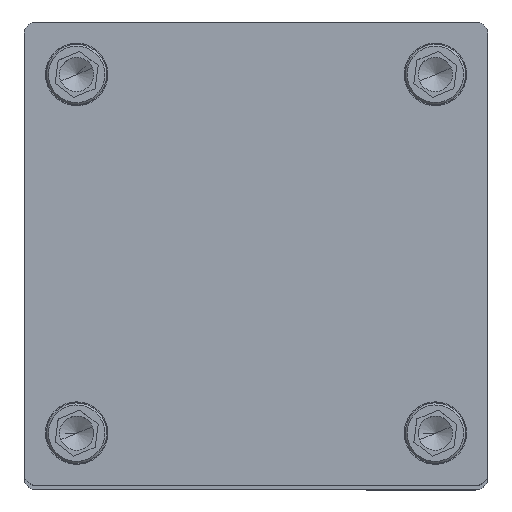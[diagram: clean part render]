
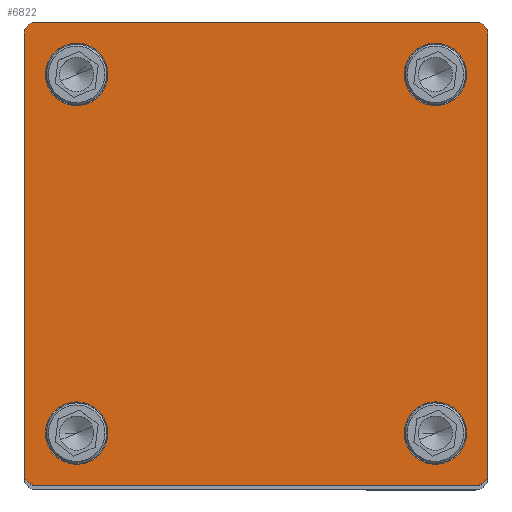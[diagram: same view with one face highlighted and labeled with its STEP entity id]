
A CAD part, top view. The second image highlights one B-rep face of the part: STEP entity #6822.
In plain terms, the highlighted planar face has unit normal (0, 0, 1).
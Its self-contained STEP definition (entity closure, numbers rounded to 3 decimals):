
#52 = CARTESIAN_POINT ( 'NONE',  ( -57.5, 57.5, 536. ) ) ;
#126 = CIRCLE ( 'NONE', #2419, 3. ) ;
#136 = ORIENTED_EDGE ( 'NONE', *, *, #2263, .F. ) ;
#143 = FACE_BOUND ( 'NONE', #11716, .T. ) ;
#163 = VERTEX_POINT ( 'NONE', #9546 ) ;
#212 = ORIENTED_EDGE ( 'NONE', *, *, #2367, .T. ) ;
#250 = VERTEX_POINT ( 'NONE', #6846 ) ;
#288 = VERTEX_POINT ( 'NONE', #12730 ) ;
#411 = EDGE_CURVE ( 'NONE', #10599, #3615, #9490, .T. ) ;
#418 = VERTEX_POINT ( 'NONE', #7049 ) ;
#552 = CARTESIAN_POINT ( 'NONE',  ( 57.5, 57.5, 536. ) ) ;
#598 = CARTESIAN_POINT ( 'NONE',  ( -54.5, 57.5, 536. ) ) ;
#819 = AXIS2_PLACEMENT_3D ( 'NONE', #1717, #10606, #1633 ) ;
#883 = DIRECTION ( 'NONE',  ( 1., 0., 0. ) ) ;
#894 = DIRECTION ( 'NONE',  ( -1., 0., 0. ) ) ;
#929 = CIRCLE ( 'NONE', #10365, 7.75 ) ;
#1045 = ORIENTED_EDGE ( 'NONE', *, *, #8635, .F. ) ;
#1046 = DIRECTION ( 'NONE',  ( 1., 0., 0. ) ) ;
#1112 = DIRECTION ( 'NONE',  ( 1., 0., 0. ) ) ;
#1202 = CARTESIAN_POINT ( 'NONE',  ( -54.5, -54.5, 536. ) ) ;
#1417 = AXIS2_PLACEMENT_3D ( 'NONE', #552, #7515, #11679 ) ;
#1427 = ORIENTED_EDGE ( 'NONE', *, *, #6413, .F. ) ;
#1499 = ORIENTED_EDGE ( 'NONE', *, *, #9145, .T. ) ;
#1523 = EDGE_CURVE ( 'NONE', #1685, #10012, #3161, .T. ) ;
#1633 = DIRECTION ( 'NONE',  ( -1., 0., 0. ) ) ;
#1679 = CARTESIAN_POINT ( 'NONE',  ( -57.5, 54.5, 536. ) ) ;
#1685 = VERTEX_POINT ( 'NONE', #5452 ) ;
#1717 = CARTESIAN_POINT ( 'NONE',  ( 54.5, -54.5, 536. ) ) ;
#1762 = VERTEX_POINT ( 'NONE', #10277 ) ;
#1873 = CIRCLE ( 'NONE', #6581, 7.75 ) ;
#1924 = DIRECTION ( 'NONE',  ( 0., -1., 0. ) ) ;
#2002 = ORIENTED_EDGE ( 'NONE', *, *, #411, .F. ) ;
#2161 = DIRECTION ( 'NONE',  ( 1., 0., 0. ) ) ;
#2200 = DIRECTION ( 'NONE',  ( -1., 0., 0. ) ) ;
#2263 = EDGE_CURVE ( 'NONE', #10012, #1685, #929, .T. ) ;
#2327 = CIRCLE ( 'NONE', #819, 3. ) ;
#2367 = EDGE_CURVE ( 'NONE', #250, #5394, #2327, .T. ) ;
#2412 = LINE ( 'NONE', #7911, #12755 ) ;
#2419 = AXIS2_PLACEMENT_3D ( 'NONE', #6948, #7948, #894 ) ;
#2424 = LINE ( 'NONE', #52, #5074 ) ;
#2607 = FACE_BOUND ( 'NONE', #11071, .T. ) ;
#2778 = LINE ( 'NONE', #5879, #12654 ) ;
#2813 = CIRCLE ( 'NONE', #5544, 7.75 ) ;
#2841 = CARTESIAN_POINT ( 'NONE',  ( -36.75, 44.5, 536. ) ) ;
#3030 = AXIS2_PLACEMENT_3D ( 'NONE', #10057, #12008, #7965 ) ;
#3046 = ORIENTED_EDGE ( 'NONE', *, *, #3603, .T. ) ;
#3080 = VECTOR ( 'NONE', #7165, 1000. ) ;
#3161 = CIRCLE ( 'NONE', #11478, 7.75 ) ;
#3378 = VERTEX_POINT ( 'NONE', #5900 ) ;
#3382 = ORIENTED_EDGE ( 'NONE', *, *, #1523, .F. ) ;
#3395 = EDGE_LOOP ( 'NONE', ( #3382, #136 ) ) ;
#3445 = DIRECTION ( 'NONE',  ( -1., 0., 0. ) ) ;
#3486 = DIRECTION ( 'NONE',  ( 0., 0., 1. ) ) ;
#3541 = CARTESIAN_POINT ( 'NONE',  ( -54.5, -57.5, 536. ) ) ;
#3603 = EDGE_CURVE ( 'NONE', #3378, #288, #12478, .T. ) ;
#3615 = VERTEX_POINT ( 'NONE', #4445 ) ;
#3647 = PLANE ( 'NONE',  #1417 ) ;
#3979 = DIRECTION ( 'NONE',  ( 0., 0., 1. ) ) ;
#3980 = CARTESIAN_POINT ( 'NONE',  ( 36.75, -44.5, 536. ) ) ;
#4008 = DIRECTION ( 'NONE',  ( 0., 0., 1. ) ) ;
#4146 = CARTESIAN_POINT ( 'NONE',  ( -36.75, -44.5, 536. ) ) ;
#4205 = EDGE_CURVE ( 'NONE', #3615, #10599, #10722, .T. ) ;
#4442 = EDGE_CURVE ( 'NONE', #163, #6057, #6148, .T. ) ;
#4445 = CARTESIAN_POINT ( 'NONE',  ( -52.25, -44.5, 536. ) ) ;
#4490 = CARTESIAN_POINT ( 'NONE',  ( 54.5, 54.5, 536. ) ) ;
#4506 = CARTESIAN_POINT ( 'NONE',  ( 36.75, 44.5, 536. ) ) ;
#5016 = DIRECTION ( 'NONE',  ( 1., 0., 0. ) ) ;
#5032 = CARTESIAN_POINT ( 'NONE',  ( -44.5, 44.5, 536. ) ) ;
#5074 = VECTOR ( 'NONE', #7946, 1000. ) ;
#5394 = VERTEX_POINT ( 'NONE', #6265 ) ;
#5426 = EDGE_LOOP ( 'NONE', ( #2002, #8602 ) ) ;
#5443 = ORIENTED_EDGE ( 'NONE', *, *, #12101, .F. ) ;
#5452 = CARTESIAN_POINT ( 'NONE',  ( 52.25, -44.5, 536. ) ) ;
#5540 = VERTEX_POINT ( 'NONE', #4506 ) ;
#5544 = AXIS2_PLACEMENT_3D ( 'NONE', #12073, #11037, #2161 ) ;
#5563 = DIRECTION ( 'NONE',  ( 1., 0., 0. ) ) ;
#5615 = VERTEX_POINT ( 'NONE', #2841 ) ;
#5879 = CARTESIAN_POINT ( 'NONE',  ( -57.5, -57.5, 536. ) ) ;
#5882 = ORIENTED_EDGE ( 'NONE', *, *, #9479, .T. ) ;
#5900 = CARTESIAN_POINT ( 'NONE',  ( 57.5, 54.5, 536. ) ) ;
#6057 = VERTEX_POINT ( 'NONE', #3541 ) ;
#6148 = CIRCLE ( 'NONE', #7030, 3. ) ;
#6265 = CARTESIAN_POINT ( 'NONE',  ( 57.5, -54.5, 536. ) ) ;
#6413 = EDGE_CURVE ( 'NONE', #5540, #418, #10183, .T. ) ;
#6581 = AXIS2_PLACEMENT_3D ( 'NONE', #12102, #6854, #883 ) ;
#6724 = VERTEX_POINT ( 'NONE', #1679 ) ;
#6822 = ADVANCED_FACE ( 'NONE', ( #2607, #8417, #10341, #143, #10963 ), #3647, .F. ) ;
#6846 = CARTESIAN_POINT ( 'NONE',  ( 54.5, -57.5, 536. ) ) ;
#6854 = DIRECTION ( 'NONE',  ( 0., 0., 1. ) ) ;
#6948 = CARTESIAN_POINT ( 'NONE',  ( -54.5, 54.5, 536. ) ) ;
#6981 = CARTESIAN_POINT ( 'NONE',  ( 44.5, -44.5, 536. ) ) ;
#6991 = CARTESIAN_POINT ( 'NONE',  ( 44.5, -44.5, 536. ) ) ;
#7030 = AXIS2_PLACEMENT_3D ( 'NONE', #1202, #8170, #2200 ) ;
#7049 = CARTESIAN_POINT ( 'NONE',  ( 52.25, 44.5, 536. ) ) ;
#7165 = DIRECTION ( 'NONE',  ( 0., 1., 0. ) ) ;
#7436 = EDGE_CURVE ( 'NONE', #6724, #163, #2778, .T. ) ;
#7502 = ORIENTED_EDGE ( 'NONE', *, *, #7841, .T. ) ;
#7515 = DIRECTION ( 'NONE',  ( 0., 0., -1. ) ) ;
#7841 = EDGE_CURVE ( 'NONE', #11753, #6724, #126, .T. ) ;
#7911 = CARTESIAN_POINT ( 'NONE',  ( -57.5, -57.5, 536. ) ) ;
#7919 = EDGE_CURVE ( 'NONE', #5394, #3378, #9379, .T. ) ;
#7946 = DIRECTION ( 'NONE',  ( -1., 0., 0. ) ) ;
#7947 = AXIS2_PLACEMENT_3D ( 'NONE', #8402, #3486, #5563 ) ;
#7948 = DIRECTION ( 'NONE',  ( 0., 0., 1. ) ) ;
#7965 = DIRECTION ( 'NONE',  ( 1., 0., 0. ) ) ;
#8034 = CARTESIAN_POINT ( 'NONE',  ( 57.5, -57.5, 536. ) ) ;
#8170 = DIRECTION ( 'NONE',  ( 0., 0., 1. ) ) ;
#8402 = CARTESIAN_POINT ( 'NONE',  ( -44.5, -44.5, 536. ) ) ;
#8417 = FACE_BOUND ( 'NONE', #5426, .T. ) ;
#8583 = DIRECTION ( 'NONE',  ( 0., 0., 1. ) ) ;
#8602 = ORIENTED_EDGE ( 'NONE', *, *, #4205, .F. ) ;
#8635 = EDGE_CURVE ( 'NONE', #5615, #1762, #8869, .T. ) ;
#8869 = CIRCLE ( 'NONE', #11279, 7.75 ) ;
#8900 = DIRECTION ( 'NONE',  ( 1., 0., 0. ) ) ;
#9123 = DIRECTION ( 'NONE',  ( 1., 0., 0. ) ) ;
#9145 = EDGE_CURVE ( 'NONE', #288, #11753, #2424, .T. ) ;
#9267 = ORIENTED_EDGE ( 'NONE', *, *, #4442, .T. ) ;
#9379 = LINE ( 'NONE', #8034, #3080 ) ;
#9479 = EDGE_CURVE ( 'NONE', #6057, #250, #2412, .T. ) ;
#9490 = CIRCLE ( 'NONE', #12001, 7.75 ) ;
#9546 = CARTESIAN_POINT ( 'NONE',  ( -57.5, -54.5, 536. ) ) ;
#9736 = EDGE_LOOP ( 'NONE', ( #9760, #3046, #1499, #7502, #10143, #9267, #5882, #212 ) ) ;
#9760 = ORIENTED_EDGE ( 'NONE', *, *, #7919, .T. ) ;
#9929 = CARTESIAN_POINT ( 'NONE',  ( -44.5, -44.5, 536. ) ) ;
#10012 = VERTEX_POINT ( 'NONE', #3980 ) ;
#10044 = DIRECTION ( 'NONE',  ( 0., 0., 1. ) ) ;
#10057 = CARTESIAN_POINT ( 'NONE',  ( 44.5, 44.5, 536. ) ) ;
#10143 = ORIENTED_EDGE ( 'NONE', *, *, #7436, .T. ) ;
#10183 = CIRCLE ( 'NONE', #3030, 7.75 ) ;
#10277 = CARTESIAN_POINT ( 'NONE',  ( -52.25, 44.5, 536. ) ) ;
#10341 = FACE_BOUND ( 'NONE', #3395, .T. ) ;
#10365 = AXIS2_PLACEMENT_3D ( 'NONE', #6991, #10044, #1112 ) ;
#10599 = VERTEX_POINT ( 'NONE', #4146 ) ;
#10606 = DIRECTION ( 'NONE',  ( 0., 0., 1. ) ) ;
#10658 = ORIENTED_EDGE ( 'NONE', *, *, #12516, .F. ) ;
#10722 = CIRCLE ( 'NONE', #7947, 7.75 ) ;
#10963 = FACE_OUTER_BOUND ( 'NONE', #9736, .T. ) ;
#11037 = DIRECTION ( 'NONE',  ( 0., 0., 1. ) ) ;
#11071 = EDGE_LOOP ( 'NONE', ( #1045, #5443 ) ) ;
#11279 = AXIS2_PLACEMENT_3D ( 'NONE', #5032, #12977, #8900 ) ;
#11478 = AXIS2_PLACEMENT_3D ( 'NONE', #6981, #3979, #5016 ) ;
#11679 = DIRECTION ( 'NONE',  ( -1., 0., 0. ) ) ;
#11716 = EDGE_LOOP ( 'NONE', ( #10658, #1427 ) ) ;
#11753 = VERTEX_POINT ( 'NONE', #598 ) ;
#12001 = AXIS2_PLACEMENT_3D ( 'NONE', #9929, #4008, #1046 ) ;
#12008 = DIRECTION ( 'NONE',  ( 0., 0., 1. ) ) ;
#12073 = CARTESIAN_POINT ( 'NONE',  ( -44.5, 44.5, 536. ) ) ;
#12101 = EDGE_CURVE ( 'NONE', #1762, #5615, #2813, .T. ) ;
#12102 = CARTESIAN_POINT ( 'NONE',  ( 44.5, 44.5, 536. ) ) ;
#12478 = CIRCLE ( 'NONE', #12566, 3. ) ;
#12516 = EDGE_CURVE ( 'NONE', #418, #5540, #1873, .T. ) ;
#12566 = AXIS2_PLACEMENT_3D ( 'NONE', #4490, #8583, #3445 ) ;
#12654 = VECTOR ( 'NONE', #1924, 1000. ) ;
#12730 = CARTESIAN_POINT ( 'NONE',  ( 54.5, 57.5, 536. ) ) ;
#12755 = VECTOR ( 'NONE', #9123, 1000. ) ;
#12977 = DIRECTION ( 'NONE',  ( 0., 0., 1. ) ) ;
